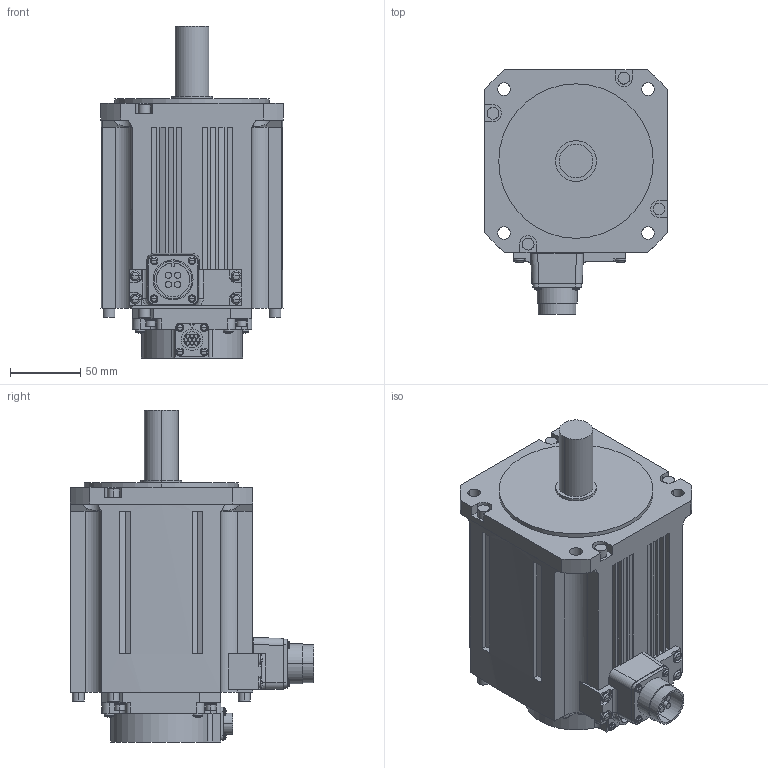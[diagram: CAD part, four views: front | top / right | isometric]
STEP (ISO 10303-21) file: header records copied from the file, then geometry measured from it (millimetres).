
FILE_DESCRIPTION((''),'2;1');
FILE_NAME('HK-ST302W_','2019-01-17T',('XE90682'),(''),'CREO PARAMETRIC BY PTC INC, 2016380','CREO PARAMETRIC BY PTC INC, 2016380','');
FILE_SCHEMA(('CONFIG_CONTROL_DESIGN'));
Length unit declared in the file: millimetre
Products named in the file (1): HK-ST302W_
Bounding box: 130 x 173.8 x 236.5 mm (x, y, z)
Volume: 2452677.4 mm3; surface area: 145970.2 mm2
Topology: 1 solids, 1 shells, 507 faces, 1241 edges, 782 vertices
Faces by surface type: plane 250, cylinder 183, torus 32, sphere 32, cone 8, bspline 2
Entity records: 15512 total; most frequent: CARTESIAN_POINT 3285, DIRECTION 2679, ORIENTED_EDGE 2418, EDGE_CURVE 1209, AXIS2_PLACEMENT_3D 993, VERTEX_POINT 782, VECTOR 693, LINE 693
